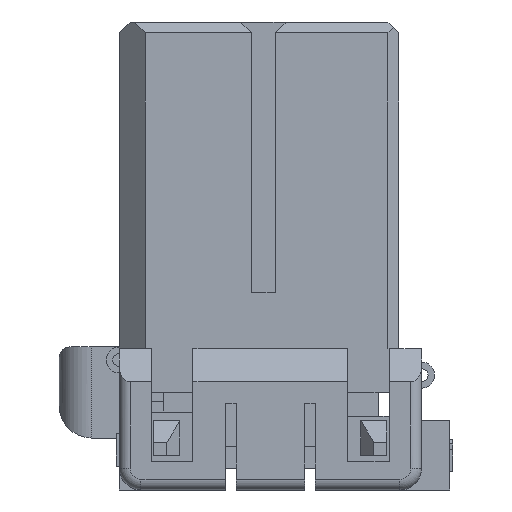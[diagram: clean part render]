
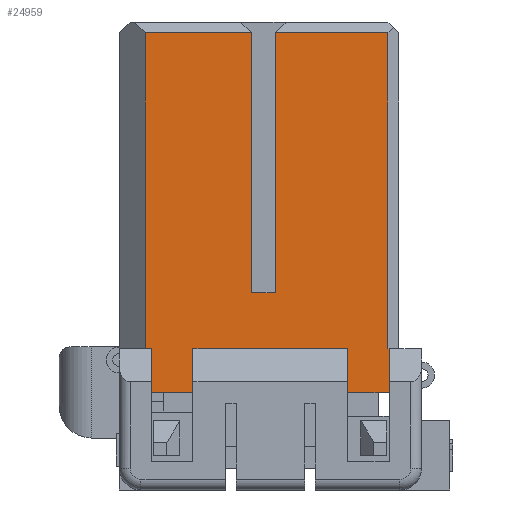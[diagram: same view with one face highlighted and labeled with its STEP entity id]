
A CAD part, left-side view. The second image highlights one B-rep face of the part: STEP entity #24959.
In plain terms, the highlighted planar face has unit normal (-1, 0, 0).
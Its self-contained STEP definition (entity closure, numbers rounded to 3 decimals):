
#5743=DIRECTION('',(0.,-1.,0.));
#5744=VECTOR('',#5743,1.9);
#5745=CARTESIAN_POINT('',(-21.75,4.95,-17.1));
#5746=LINE('',#5745,#5744);
#5779=DIRECTION('',(0.,-1.,0.));
#5780=VECTOR('',#5779,1.9);
#5781=CARTESIAN_POINT('',(-21.75,-4.1,-17.1));
#5782=LINE('',#5781,#5780);
#7035=DIRECTION('',(0.,0.,1.));
#7036=VECTOR('',#7035,2.026);
#7037=CARTESIAN_POINT('',(-21.75,-6.,-17.1));
#7038=LINE('',#7037,#7036);
#7039=DIRECTION('',(0.,0.,-1.));
#7040=VECTOR('',#7039,2.026);
#7041=CARTESIAN_POINT('',(-21.75,-4.1,-15.074));
#7042=LINE('',#7041,#7040);
#7043=DIRECTION('',(0.,-1.,0.));
#7044=VECTOR('',#7043,7.15);
#7045=CARTESIAN_POINT('',(-21.75,3.05,-15.074));
#7046=LINE('',#7045,#7044);
#7047=DIRECTION('',(0.,0.,1.));
#7048=VECTOR('',#7047,2.026);
#7049=CARTESIAN_POINT('',(-21.75,3.05,-17.1));
#7050=LINE('',#7049,#7048);
#7051=DIRECTION('',(0.,0.,-1.));
#7052=VECTOR('',#7051,2.026);
#7053=CARTESIAN_POINT('',(-21.75,4.95,-15.074));
#7054=LINE('',#7053,#7052);
#7055=DIRECTION('',(0.,-1.,0.));
#7056=VECTOR('',#7055,0.3);
#7057=CARTESIAN_POINT('',(-21.75,5.25,-15.074));
#7058=LINE('',#7057,#7056);
#7059=DIRECTION('',(0.,0.,-1.));
#7060=VECTOR('',#7059,14.574);
#7061=CARTESIAN_POINT('',(-21.75,5.25,-0.5));
#7062=LINE('',#7061,#7060);
#7063=DIRECTION('',(0.,-1.,0.));
#7064=VECTOR('',#7063,4.9);
#7065=CARTESIAN_POINT('',(-21.75,5.25,-0.5));
#7066=LINE('',#7065,#7064);
#7067=DIRECTION('',(0.,0.,-1.));
#7068=VECTOR('',#7067,12.);
#7069=CARTESIAN_POINT('',(-21.75,0.35,-0.5));
#7070=LINE('',#7069,#7068);
#7071=DIRECTION('',(0.,-1.,0.));
#7072=VECTOR('',#7071,1.1);
#7073=CARTESIAN_POINT('',(-21.75,0.35,-12.5));
#7074=LINE('',#7073,#7072);
#7075=DIRECTION('',(0.,0.,-1.));
#7076=VECTOR('',#7075,12.);
#7077=CARTESIAN_POINT('',(-21.75,-0.75,-0.5));
#7078=LINE('',#7077,#7076);
#7079=DIRECTION('',(0.,-1.,0.));
#7080=VECTOR('',#7079,5.2);
#7081=CARTESIAN_POINT('',(-21.75,-0.75,-0.5));
#7082=LINE('',#7081,#7080);
#7083=DIRECTION('',(0.,0.,1.));
#7084=VECTOR('',#7083,14.574);
#7085=CARTESIAN_POINT('',(-21.75,-5.95,-15.074));
#7086=LINE('',#7085,#7084);
#7087=DIRECTION('',(0.,-1.,0.));
#7088=VECTOR('',#7087,0.05);
#7089=CARTESIAN_POINT('',(-21.75,-5.95,-15.074));
#7090=LINE('',#7089,#7088);
#12812=CARTESIAN_POINT('',(-21.75,3.05,-15.074));
#12813=VERTEX_POINT('',#12812);
#12814=CARTESIAN_POINT('',(-21.75,4.95,-15.074));
#12815=VERTEX_POINT('',#12814);
#12816=CARTESIAN_POINT('',(-21.75,-6.,-15.074));
#12817=VERTEX_POINT('',#12816);
#12818=CARTESIAN_POINT('',(-21.75,-4.1,-15.074));
#12819=VERTEX_POINT('',#12818);
#12821=CARTESIAN_POINT('',(-21.75,3.05,-17.1));
#12823=VERTEX_POINT('',#12821);
#12826=CARTESIAN_POINT('',(-21.75,4.95,-17.1));
#12827=VERTEX_POINT('',#12826);
#12845=CARTESIAN_POINT('',(-21.75,-6.,-17.1));
#12847=VERTEX_POINT('',#12845);
#12850=CARTESIAN_POINT('',(-21.75,-4.1,-17.1));
#12851=VERTEX_POINT('',#12850);
#12968=CARTESIAN_POINT('',(-21.75,0.35,-12.5));
#12969=CARTESIAN_POINT('',(-21.75,-0.75,-12.5));
#12970=VERTEX_POINT('',#12968);
#12971=VERTEX_POINT('',#12969);
#13038=CARTESIAN_POINT('',(-21.75,5.25,-15.074));
#13040=VERTEX_POINT('',#13038);
#13056=CARTESIAN_POINT('',(-21.75,-0.75,-0.5));
#13057=CARTESIAN_POINT('',(-21.75,-5.95,-0.5));
#13058=VERTEX_POINT('',#13056);
#13059=VERTEX_POINT('',#13057);
#13098=CARTESIAN_POINT('',(-21.75,5.25,-0.5));
#13099=CARTESIAN_POINT('',(-21.75,0.35,-0.5));
#13100=VERTEX_POINT('',#13098);
#13101=VERTEX_POINT('',#13099);
#14884=CARTESIAN_POINT('',(-21.75,-5.95,-15.074));
#14885=VERTEX_POINT('',#14884);
#24924=CARTESIAN_POINT('',(-21.75,0.,-18.3));
#24925=DIRECTION('',(-1.,0.,0.));
#24926=DIRECTION('',(0.,-1.,0.));
#24927=AXIS2_PLACEMENT_3D('',#24924,#24925,#24926);
#24928=PLANE('',#24927);
#24930=ORIENTED_EDGE('',*,*,#24929,.F.);
#24931=ORIENTED_EDGE('',*,*,#23671,.F.);
#24933=ORIENTED_EDGE('',*,*,#24932,.F.);
#24935=ORIENTED_EDGE('',*,*,#24934,.F.);
#24937=ORIENTED_EDGE('',*,*,#24936,.F.);
#24938=ORIENTED_EDGE('',*,*,#23639,.F.);
#24940=ORIENTED_EDGE('',*,*,#24939,.F.);
#24942=ORIENTED_EDGE('',*,*,#24941,.F.);
#24944=ORIENTED_EDGE('',*,*,#24943,.F.);
#24946=ORIENTED_EDGE('',*,*,#24945,.T.);
#24948=ORIENTED_EDGE('',*,*,#24947,.T.);
#24949=ORIENTED_EDGE('',*,*,#24794,.T.);
#24951=ORIENTED_EDGE('',*,*,#24950,.F.);
#24953=ORIENTED_EDGE('',*,*,#24952,.T.);
#24955=ORIENTED_EDGE('',*,*,#24954,.F.);
#24956=ORIENTED_EDGE('',*,*,#23237,.T.);
#24957=EDGE_LOOP('',(#24930,#24931,#24933,#24935,#24937,#24938,#24940,#24942,
#24944,#24946,#24948,#24949,#24951,#24953,#24955,#24956));
#24958=FACE_OUTER_BOUND('',#24957,.F.);
#24959=ADVANCED_FACE('',(#24958),#24928,.T.);
#23237=EDGE_CURVE('',#14885,#12817,#7090,.T.);
#23639=EDGE_CURVE('',#12827,#12823,#5746,.T.);
#23671=EDGE_CURVE('',#12851,#12847,#5782,.T.);
#24794=EDGE_CURVE('',#12970,#12971,#7074,.T.);
#24929=EDGE_CURVE('',#12847,#12817,#7038,.T.);
#24932=EDGE_CURVE('',#12819,#12851,#7042,.T.);
#24934=EDGE_CURVE('',#12813,#12819,#7046,.T.);
#24936=EDGE_CURVE('',#12823,#12813,#7050,.T.);
#24939=EDGE_CURVE('',#12815,#12827,#7054,.T.);
#24941=EDGE_CURVE('',#13040,#12815,#7058,.T.);
#24943=EDGE_CURVE('',#13100,#13040,#7062,.T.);
#24945=EDGE_CURVE('',#13100,#13101,#7066,.T.);
#24947=EDGE_CURVE('',#13101,#12970,#7070,.T.);
#24950=EDGE_CURVE('',#13058,#12971,#7078,.T.);
#24952=EDGE_CURVE('',#13058,#13059,#7082,.T.);
#24954=EDGE_CURVE('',#14885,#13059,#7086,.T.);
